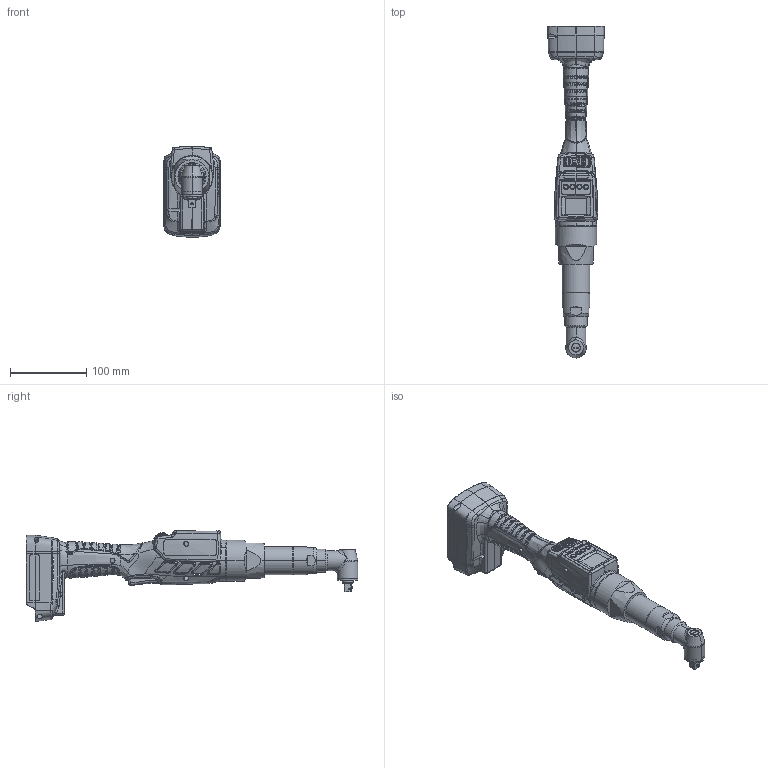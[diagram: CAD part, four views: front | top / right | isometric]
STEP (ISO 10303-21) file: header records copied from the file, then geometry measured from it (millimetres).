
FILE_DESCRIPTION (( 'STEP AP203' ), '1' );
FILE_NAME ('BMH3216-Q 諼睡辨.STEP', '2021-03-04T00:27:44', ( '' ), ( '' ), 'SwSTEP 2.0', 'SolidWorks 2020', '' );
FILE_SCHEMA (( 'CONFIG_CONTROL_DESIGN' ));
Products named in the file (1): BMH3216-Q 諼睡辨
Bounding box: 74.18 x 436.39 x 119.33 mm (x, y, z)
Surface area: 102876.5 mm2 (no closed solid volume)
Topology: 0 solids, 30 shells, 1537 faces, 5092 edges, 3454 vertices
Faces by surface type: bspline 975, plane 239, cylinder 226, sphere 45, cone 38, torus 14
Entity records: 131270 total; most frequent: CARTESIAN_POINT 98251, ORIENTED_EDGE 8069, EDGE_CURVE 5078, DIRECTION 3499, VERTEX_POINT 3451, B_SPLINE_CURVE_WITH_KNOTS 2897, EDGE_LOOP 1612, ADVANCED_FACE 1536
